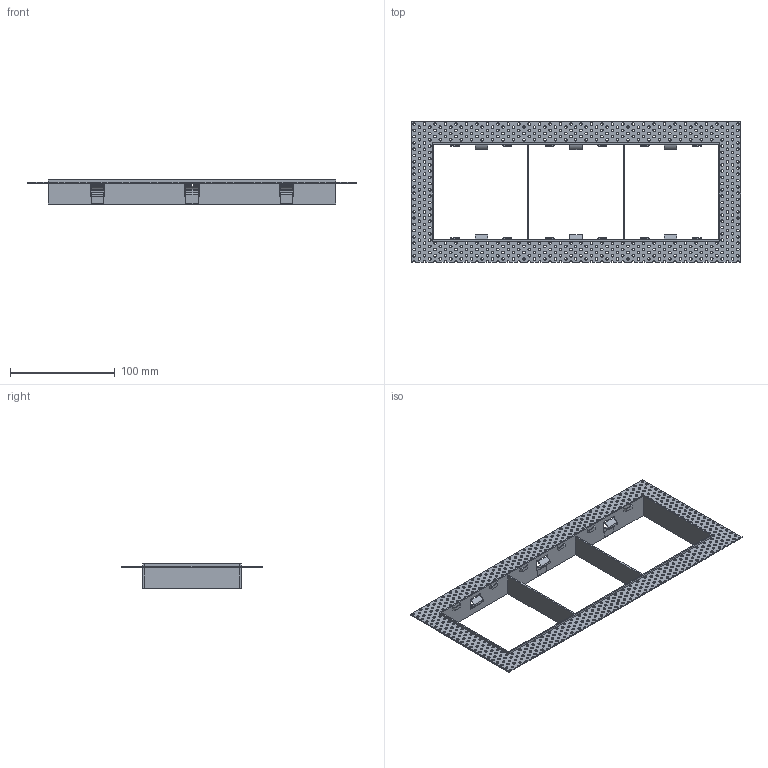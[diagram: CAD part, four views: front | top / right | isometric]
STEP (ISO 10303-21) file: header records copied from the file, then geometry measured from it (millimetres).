
FILE_DESCRIPTION(/* description */ (''),/* implementation_level */ '2;1');
FILE_NAME(/* name */ 'C:\Users\FrancoSartori\Documents\FARO\01_En Proceso\0000_2022\000_PRO\000_PODIUM\03_Publicación\02 PODIUM EMPOTRADO SIN MARCO 3.stp',/* time_stamp */ '2022-05-12T13:44:30+02:00',/* author */ ('FrancoSartori'),/* organization */ (''),/* preprocessor_version */ 'ST-DEVELOPER v19',/* originating_system */ 'AutoCAD Mechanical',/* authorisation */ '');
FILE_SCHEMA (('AUTOMOTIVE_DESIGN { 1 0 10303 214 3 1 1 }'));
Length unit declared in the file: millimetre
Products named in the file (2): Product; 02 PODIUM EMPOTRADO SIN MARCO 3_ - Lamp-684407-View 1
Assembly tree (1 placements, depth 2):
  Product
    02 PODIUM EMPOTRADO SIN MARCO 3_ - Lamp-684407-View 1
Bounding box: 315 x 134 x 23 mm (x, y, z)
Volume: 39498.7 mm3; surface area: 78402.1 mm2
Topology: 7 solids, 7 shells, 1322 faces, 3924 edges, 2616 vertices
Faces by surface type: cylinder 1080, plane 242
Entity records: 47627 total; most frequent: DIRECTION 8734, CARTESIAN_POINT 7865, ORIENTED_EDGE 7848, EDGE_CURVE 3924, AXIS2_PLACEMENT_3D 3485, VERTEX_POINT 2616, EDGE_LOOP 2376, CIRCLE 2160
